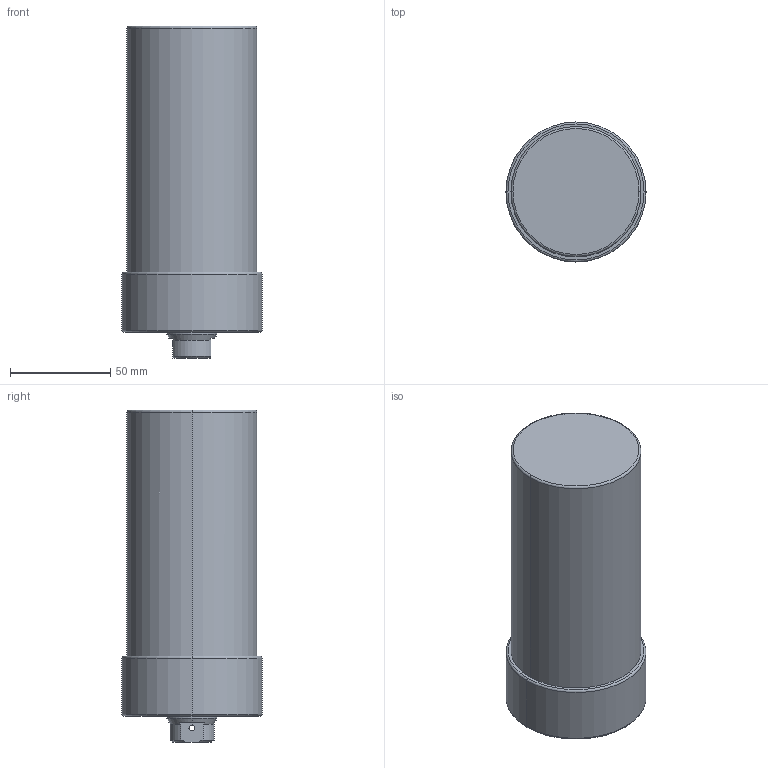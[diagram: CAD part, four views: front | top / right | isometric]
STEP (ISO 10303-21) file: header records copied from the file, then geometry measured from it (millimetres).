
FILE_DESCRIPTION (( 'STEP AP203' ), '1' );
FILE_NAME ('CLLU-065GB-090.STEP', '2020-01-07T06:40:13', ( '' ), ( '' ), 'SwSTEP 2.0', 'SolidWorks 2015', '' );
FILE_SCHEMA (( 'CONFIG_CONTROL_DESIGN' ));
Length unit declared in the file: millimetre
Products named in the file (1): CLLU-065GB-090
Bounding box: 70 x 70 x 166 mm (x, y, z)
Volume: 523976.7 mm3; surface area: 42198.3 mm2
Topology: 1 solids, 1 shells, 66 faces, 154 edges, 87 vertices
Faces by surface type: cylinder 26, cone 24, plane 10, torus 6
Entity records: 2001 total; most frequent: CARTESIAN_POINT 430, DIRECTION 342, ORIENTED_EDGE 288, EDGE_CURVE 144, AXIS2_PLACEMENT_3D 143, VERTEX_POINT 87, EDGE_LOOP 77, CIRCLE 76
